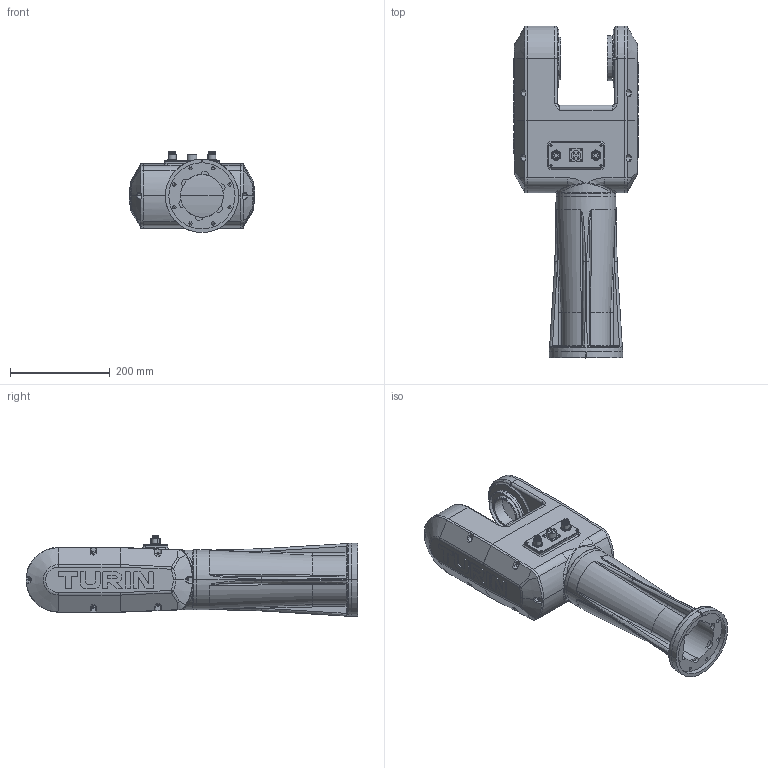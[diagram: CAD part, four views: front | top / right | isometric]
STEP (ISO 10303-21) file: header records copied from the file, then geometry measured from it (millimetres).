
FILE_DESCRIPTION (( 'STEP AP203' ), '1' );
FILE_NAME ('TKB3670-05.STEP', '2023-07-17T01:47:18', ( '1' ), ( '1' ), 'SwSTEP 2.0', 'SolidWorks 2018', '' );
FILE_SCHEMA (( 'CONFIG_CONTROL_DESIGN' ));
Length unit declared in the file: millimetre
Products named in the file (1): TKB3670-05
Bounding box: 251 x 666.5 x 162.5 mm (x, y, z)
Surface area: 520081.6 mm2 (no closed solid volume)
Topology: 0 solids, 21 shells, 836 faces, 2638 edges, 1777 vertices
Faces by surface type: cylinder 290, plane 220, bspline 155, torus 81, cone 56, sphere 34
Entity records: 36827 total; most frequent: CARTESIAN_POINT 14864, ORIENTED_EDGE 4525, DIRECTION 4344, EDGE_CURVE 2564, AXIS2_PLACEMENT_3D 1742, VERTEX_POINT 1741, CIRCLE 1060, EDGE_LOOP 1008
